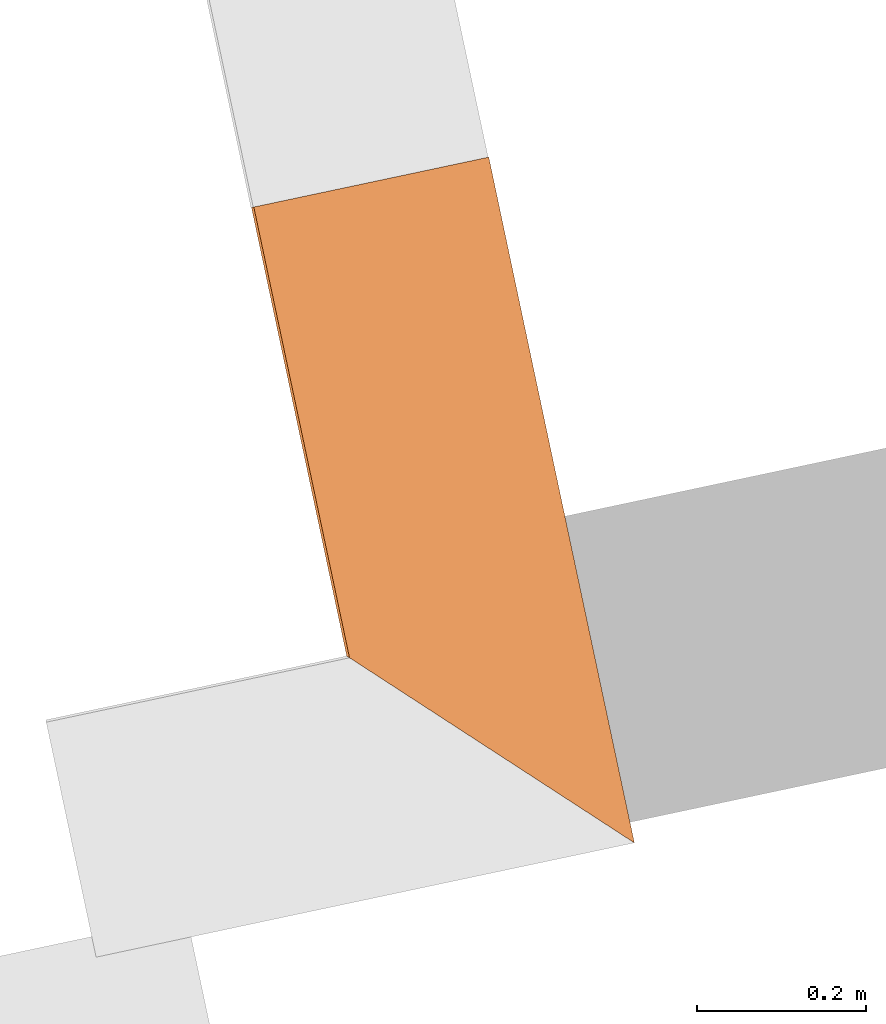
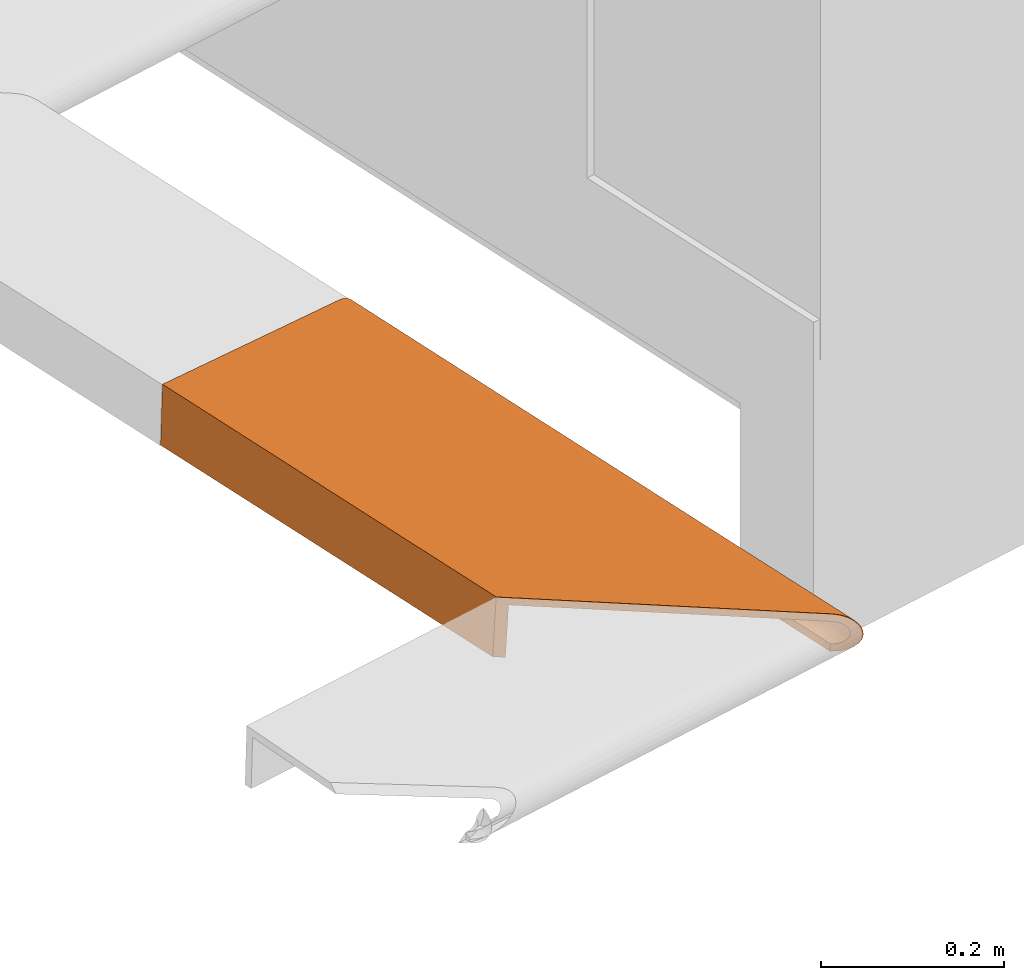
# One storey, part 22 of 22: 1 proxy.
"""IFC2X3 building model written with IfcOpenShell, lengths in centimetres."""

from ifc_helpers import new_model, entity, si_unit, converted_unit, derived_unit, direction, frame, origin, place, context, subcontext, project, spatial, faceted_brep, type_object, element, save


model = new_model("IFC2X3")

# Units and contexts
model_context = context("Model", 3, precision=0.001, world=origin(), true_north=direction((6.12303176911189e-17, 1.0)))
body_context = subcontext(model_context, "Body", "Model", "MODEL_VIEW")
ifc_project = project(units=[si_unit("LENGTHUNIT", "METRE", prefix="CENTI"), si_unit("AREAUNIT", "SQUARE_METRE"), si_unit("VOLUMEUNIT", "CUBIC_METRE"), converted_unit("PLANEANGLEUNIT", "DEGREE", entity("IfcRatioMeasure", 0.0174532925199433), si_unit("PLANEANGLEUNIT", "RADIAN"), dimensions=[0, 0, 0, 0, 0, 0, 0]), si_unit("MASSUNIT", "GRAM", prefix="KILO"), derived_unit("MASSDENSITYUNIT", [(si_unit("MASSUNIT", "GRAM", prefix="KILO"), 1), (si_unit("LENGTHUNIT", "METRE"), -3)]), derived_unit("IONCONCENTRATIONUNIT", [(si_unit("MASSUNIT", "GRAM", prefix="KILO"), 1), (si_unit("LENGTHUNIT", "METRE"), -3)]), derived_unit("MOMENTOFINERTIAUNIT", [(si_unit("LENGTHUNIT", "METRE"), 4)]), si_unit("TIMEUNIT", "SECOND"), si_unit("FREQUENCYUNIT", "HERTZ"), si_unit("THERMODYNAMICTEMPERATUREUNIT", "DEGREE_CELSIUS"), derived_unit("THERMALTRANSMITTANCEUNIT", [(si_unit("MASSUNIT", "GRAM", prefix="KILO"), 1), (si_unit("THERMODYNAMICTEMPERATUREUNIT", "KELVIN"), -1), (si_unit("TIMEUNIT", "SECOND"), -3)]), derived_unit("THERMALCONDUCTANCEUNIT", [(si_unit("MASSUNIT", "GRAM", prefix="KILO"), 1), (si_unit("THERMODYNAMICTEMPERATUREUNIT", "KELVIN"), -1), (si_unit("TIMEUNIT", "SECOND"), -3), (si_unit("LENGTHUNIT", "METRE"), 1)]), derived_unit("VOLUMETRICFLOWRATEUNIT", [(si_unit("LENGTHUNIT", "METRE"), 3), (si_unit("TIMEUNIT", "SECOND"), -1)]), derived_unit("MASSFLOWRATEUNIT", [(si_unit("MASSUNIT", "GRAM", prefix="KILO"), 1), (si_unit("TIMEUNIT", "SECOND"), -1)]), derived_unit("ROTATIONALFREQUENCYUNIT", [(si_unit("TIMEUNIT", "SECOND"), -1)]), si_unit("ELECTRICCURRENTUNIT", "AMPERE"), si_unit("ELECTRICVOLTAGEUNIT", "VOLT"), si_unit("POWERUNIT", "WATT"), si_unit("FORCEUNIT", "NEWTON", prefix="KILO"), si_unit("ILLUMINANCEUNIT", "LUX"), si_unit("LUMINOUSFLUXUNIT", "LUMEN"), si_unit("LUMINOUSINTENSITYUNIT", "CANDELA"), derived_unit("USERDEFINED", [(si_unit("MASSUNIT", "GRAM", prefix="KILO"), -1), (si_unit("LENGTHUNIT", "METRE"), -2), (si_unit("TIMEUNIT", "SECOND"), 3), (si_unit("LUMINOUSFLUXUNIT", "LUMEN"), 1)]), derived_unit("USERDEFINED", [(si_unit("MASSUNIT", "GRAM", prefix="KILO"), 1), (si_unit("TIMEUNIT", "SECOND"), -3), (si_unit("LENGTHUNIT", "METRE"), 3), (si_unit("ELECTRICCURRENTUNIT", "AMPERE"), -2)]), derived_unit("SOUNDPOWERUNIT", [(si_unit("MASSUNIT", "GRAM", prefix="KILO"), 1), (si_unit("TIMEUNIT", "SECOND"), -3), (si_unit("LENGTHUNIT", "METRE"), 2)]), derived_unit("SOUNDPRESSUREUNIT", [(si_unit("MASSUNIT", "GRAM", prefix="KILO"), 1), (si_unit("LENGTHUNIT", "METRE"), -1), (si_unit("TIMEUNIT", "SECOND"), -2)]), derived_unit("LINEARVELOCITYUNIT", [(si_unit("LENGTHUNIT", "METRE"), 1), (si_unit("TIMEUNIT", "SECOND"), -1)]), si_unit("PRESSUREUNIT", "PASCAL"), derived_unit("USERDEFINED", [(si_unit("MASSUNIT", "GRAM", prefix="KILO"), 1), (si_unit("LENGTHUNIT", "METRE"), -2), (si_unit("TIMEUNIT", "SECOND"), -2)]), derived_unit("LINEARFORCEUNIT", [(si_unit("MASSUNIT", "GRAM", prefix="KILO"), 1), (si_unit("TIMEUNIT", "SECOND"), -2)]), derived_unit("PLANARFORCEUNIT", [(si_unit("MASSUNIT", "GRAM", prefix="KILO"), 1), (si_unit("LENGTHUNIT", "METRE"), -1), (si_unit("TIMEUNIT", "SECOND"), -2)]), derived_unit("SPECIFICHEATCAPACITYUNIT", [(si_unit("THERMODYNAMICTEMPERATUREUNIT", "KELVIN"), -1), (si_unit("LENGTHUNIT", "METRE"), 2), (si_unit("TIMEUNIT", "SECOND"), -2)]), derived_unit("HEATINGVALUEUNIT", [(si_unit("LENGTHUNIT", "METRE"), 2), (si_unit("TIMEUNIT", "SECOND"), -2)]), derived_unit("VAPORPERMEABILITYUNIT", [(si_unit("LENGTHUNIT", "METRE"), -1), (si_unit("TIMEUNIT", "SECOND"), 1)]), derived_unit("DYNAMICVISCOSITYUNIT", [(si_unit("MASSUNIT", "GRAM", prefix="KILO"), 1), (si_unit("TIMEUNIT", "SECOND"), -1), (si_unit("LENGTHUNIT", "METRE"), -1)]), derived_unit("THERMALEXPANSIONCOEFFICIENTUNIT", [(si_unit("THERMODYNAMICTEMPERATUREUNIT", "KELVIN"), -1)]), derived_unit("MODULUSOFELASTICITYUNIT", [(si_unit("MASSUNIT", "GRAM", prefix="KILO"), 1), (si_unit("LENGTHUNIT", "METRE"), -1), (si_unit("TIMEUNIT", "SECOND"), -2)]), derived_unit("ISOTHERMALMOISTURECAPACITYUNIT", [(si_unit("LENGTHUNIT", "METRE"), 3), (si_unit("MASSUNIT", "GRAM", prefix="KILO"), -1)]), derived_unit("MOISTUREDIFFUSIVITYUNIT", [(si_unit("TIMEUNIT", "SECOND"), -1), (si_unit("LENGTHUNIT", "METRE"), 2)])], contexts=[model_context])

# Site, building, storey
site_placement = place(None, frame((14083.8920177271, -6853.25409548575, 6900.0), z_axis=(0.0, 0.0, 1.0), x_axis=(0.978188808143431, 0.207717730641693, 0.0)))
site = spatial("IfcSite", under=ifc_project, at=site_placement, Name="Surface", CompositionType="ELEMENT")
building_placement = place(site_placement, origin())
building = spatial("IfcBuilding", under=site, at=building_placement, CompositionType="ELEMENT")
storey_placement = place(building_placement, frame((0.0, 0.0, -17.0)))
storey = spatial("IfcBuildingStorey", under=building, at=storey_placement, Name="Rez de chaussée (SD)", CompositionType="ELEMENT", Elevation=-16.9999999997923)

# Proxy
building_element_proxy_type = type_object("IfcBuildingElementProxyType", Name="5118326", PredefinedType="NOTDEFINED")
proxy_placement = place(storey_placement, frame((-6216.43697857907, 14788.0267901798, 335.37614245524)))
element("IfcBuildingElementProxy", 1, at=proxy_placement, inside=storey, type_object=building_element_proxy_type, Name="5118326", context=body_context, shape_type="Brep", body=[
    faceted_brep([(1.24368730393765, 83.0336786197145, 6.99573578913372), (0.999390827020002, 83.0336786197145, 0.0), (0.0, 83.0336786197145, 0.0348994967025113), (0.244296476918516, 83.0336786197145, 7.03063528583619), (0.279195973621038, 83.0336786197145, 8.03002611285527), (26.2633574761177, 83.0336786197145, 7.12263919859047), (26.8987360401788, 83.0336786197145, 7.01744643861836), (27.4861520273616, 83.0336786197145, 6.75343115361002), (27.9866298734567, 83.0336786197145, 6.34811491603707), (28.3669570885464, 83.0336786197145, 5.82839777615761), (28.6018971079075, 83.0336786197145, 5.2287700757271), (28.6758617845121, 83.0336786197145, 4.58902399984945), (28.5839454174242, 83.0336786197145, 3.95161287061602), (28.3322498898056, 83.0336786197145, 3.35883398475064), (27.9374793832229, 83.0336786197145, 2.85002193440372), (27.4258316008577, 83.0336786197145, 2.45893864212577), (26.8312591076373, 83.0336786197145, 2.21153327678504), (26.1953722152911, 83.0336786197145, 2.12453784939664), (26.1417191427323, 83.0336786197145, 2.12439867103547), (26.0888599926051, 83.0336786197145, 2.12568506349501), (26.1237594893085, 83.0336786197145, 3.12507589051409), (26.158994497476, 83.0336786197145, 3.12425976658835), (26.1947304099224, 83.0336786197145, 3.12446845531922), (26.5753625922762, 83.0336786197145, 3.17827266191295), (26.9309667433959, 83.0336786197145, 3.32794093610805), (27.2366326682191, 83.0336786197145, 3.56336573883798), (27.4721370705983, 83.0336786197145, 3.86897304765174), (27.6218979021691, 83.0336786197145, 4.22454521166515), (27.6760054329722, 83.0336786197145, 4.60655833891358), (27.6308781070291, 83.0336786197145, 4.98973848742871), (27.4894997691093, 83.0336786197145, 5.34873372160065), (27.2612225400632, 83.0336786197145, 5.65979142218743), (26.9611483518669, 83.0336786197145, 5.90232988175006), (26.6091313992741, 83.0336786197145, 6.0602997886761), (26.2284579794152, 83.0336786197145, 6.12324837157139), (27.6376638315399, 1.19644919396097, 4.96158871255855), (27.6751949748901, 1.15891805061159, 4.57181288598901), (27.6105658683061, 1.22354715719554, 4.18560457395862), (27.4481808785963, 1.38593214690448, 3.82928323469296), (27.1991062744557, 1.63500675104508, 3.52713157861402), (26.8803160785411, 1.95379694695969, 3.29974074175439), (26.5135353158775, 2.32057770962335, 3.16260703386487), (26.1237594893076, 2.71035353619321, 3.12507589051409), (26.088859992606, 2.74525303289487, 2.12568506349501), (26.7384863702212, 2.09562665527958, 2.18823696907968), (27.3497876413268, 1.48432538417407, 2.41679314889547), (27.8811046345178, 0.953008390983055, 2.79577787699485), (28.2962289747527, 0.537884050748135, 3.29936397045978), (28.5668706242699, 0.267242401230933, 3.89323286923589), (28.6745858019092, 0.15952722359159, 4.53691338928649), (28.6120338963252, 0.222079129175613, 5.18653976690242), (28.3834777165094, 0.450635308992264, 5.79784103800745), (28.0044929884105, 0.829620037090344, 6.32915803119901), (27.5009068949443, 1.33320613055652, 6.74428237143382), (26.9070379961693, 1.92707502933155, 7.01492402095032), (26.2633574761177, 2.57075554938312, 7.12263919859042), (0.279195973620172, 28.5549170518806, 8.03002611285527), (0.244296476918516, 28.5898165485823, 7.03063528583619), (0.0, 28.8341130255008, 0.0348994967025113), (0.999390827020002, 27.8347221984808, 0.0), (1.24368730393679, 27.590425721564, 6.99573578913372), (26.2284579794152, 2.60565504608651, 6.12324837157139), (26.6146662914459, 2.21944673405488, 6.05861926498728), (26.9709876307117, 1.86312539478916, 5.89623427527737), (27.2731392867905, 1.56097373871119, 5.64715967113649), (27.5005301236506, 1.33358290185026, 5.32836947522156), (26.2284579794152, 55.9870521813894, 6.12324837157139), (26.2284579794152, 28.9404257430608, 6.12324837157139), (26.2633574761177, 20.0293310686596, 7.12263919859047), (26.2633574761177, 42.8022170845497, 7.12263919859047), (26.2633574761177, 62.9179478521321, 7.12263919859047), (26.0888599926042, 20.2037753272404, 2.12568506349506), (26.5291524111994, 34.1602046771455, 2.14921563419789), (27.6436705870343, 41.7130473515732, 2.60023965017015), (27.0655367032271, 28.6679955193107, 2.28772940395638), (27.1365450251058, 57.5667242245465, 2.31601089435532), (27.2325791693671, 42.0769296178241, 6.88996667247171), (26.7550926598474, 31.415747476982, 7.05619371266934), (27.1908052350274, 20.1145617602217, 6.90897963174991), (28.5191126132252, 18.6467652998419, 5.49613278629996), (28.664739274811, 26.0860074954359, 4.86231761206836), (28.6595656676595, 57.0602767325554, 4.91128868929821), (28.520747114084, 41.3648125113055, 5.49172819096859), (28.1935987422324, 54.5703847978, 6.10055437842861), (28.2160492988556, 24.0535236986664, 6.06937578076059), (28.6505142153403, 41.9118818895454, 4.26734633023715), (27.7757276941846, 27.9379257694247, 6.54541671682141), (28.6505142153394, 64.6135292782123, 4.2673463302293), (26.7654108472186, 56.208687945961, 7.05371415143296), (26.088859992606, 48.1166340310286, 2.12568506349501), (26.6023909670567, 56.8458951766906, 2.16077351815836), (27.23811642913, 64.1943843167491, 6.88737658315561), (27.7494970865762, 59.5232835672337, 6.56695627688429), (28.5038161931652, 64.2660839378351, 5.53618076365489), (28.6421235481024, 18.9545988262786, 4.21334472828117), (26.088859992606, 65.5751563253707, 2.12568506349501), (28.4539128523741, 29.0575280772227, 3.59381830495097), (28.4772649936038, 59.4640975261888, 3.64708492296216), (27.6349078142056, 19.2329716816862, 2.59391454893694), (28.1108109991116, 24.4064619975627, 3.04083426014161), (28.1513168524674, 54.2348375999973, 3.09166322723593), (27.69430094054, 64.4223287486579, 2.63793645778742), (26.1237594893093, 28.9406607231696, 3.12507589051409), (26.1237594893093, 55.9871696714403, 3.12507589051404), (26.7579967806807, 67.826277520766, 3.24162594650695), (26.7902402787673, 48.1983193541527, 5.99268047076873), (26.5122887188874, 51.3619434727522, 6.08600446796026), (26.7902402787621, 67.1277840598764, 5.99268047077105), (27.1190163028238, 61.0806540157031, 5.79074916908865), (27.0723323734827, 43.2829671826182, 5.82698513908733), (27.5584974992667, 58.862072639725, 4.04192394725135), (27.3642516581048, 64.9383206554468, 3.70856593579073), (27.0914005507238, 61.5487662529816, 3.43578471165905), (27.3854042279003, 43.2742171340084, 5.51163292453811), (26.7579967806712, 49.4801292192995, 3.24162594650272), (27.6658132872, 42.2932865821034, 4.79960541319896), (27.5821392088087, 24.8502281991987, 5.14673107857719), (27.5925982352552, 42.1231160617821, 5.11767757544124), (26.4150024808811, 23.9102311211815, 3.14330772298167), (26.614818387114, 36.038582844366, 3.18975150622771), (26.4309679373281, 48.0944242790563, 3.14597175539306), (26.8036396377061, 20.7753589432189, 5.98658826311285), (27.1352811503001, 25.718355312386, 5.77741330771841), (27.3995017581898, 20.0594589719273, 5.49209617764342), (27.6612854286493, 64.4121039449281, 4.41380484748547), (26.4195072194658, 66.2519961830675, 3.14404146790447), (27.0531502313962, 27.3348514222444, 3.4072816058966), (27.3362763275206, 20.5929975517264, 3.67336711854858), (27.6692634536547, 19.7823605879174, 4.76730186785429), (26.7073524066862, 21.2373899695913, 3.22138625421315), (27.3854042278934, 64.8604844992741, 5.51163292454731), (27.6000595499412, 16.8227492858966, 4.15260717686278), (27.4878646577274, 15.6881671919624, 3.89663453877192), (27.5717796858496, 59.1803834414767, 5.17380073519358), (27.6658132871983, 65.2390746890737, 4.79960541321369), (27.5158387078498, 44.5786272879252, 3.94953364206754), (27.5355502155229, 29.4979537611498, 3.99019142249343), (27.6413711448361, 45.7347515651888, 4.30321654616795), (26.4784066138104, 67.1524666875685, 6.09338505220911), (27.1346437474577, 44.1308851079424, 3.47038111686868), (27.3642516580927, 42.4818999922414, 3.70856593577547), (26.5070794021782, 18.0215316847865, 6.08719269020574), (26.5965187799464, 34.1636096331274, 6.06404247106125), (27.6557811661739, 26.5502409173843, 4.37805342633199)], [[[0, 1, 2, 3, 4, 5, 6, 7, 8, 9, 10, 11, 12, 13, 14, 15, 16, 17, 18, 19, 20, 21, 22, 23, 24, 25, 26, 27, 28, 29, 30, 31, 32, 33, 34]], [[35, 36, 37, 38, 39, 40, 41, 42, 43, 44, 45, 46, 47, 48, 49, 50, 51, 52, 53, 54, 55, 56, 57, 58, 59, 60, 61, 62, 63, 64, 65]], [[0, 34, 66, 67, 61, 60]], [[1, 0, 60, 59]], [[2, 1, 59, 58]], [[3, 2, 58, 57, 56, 4]], [[5, 4, 56, 55, 68, 69, 70]], [[68, 55, 54]], [[44, 71, 72]], [[73, 74, 75]], [[76, 77, 78]], [[51, 50, 79]], [[80, 81, 82]], [[82, 83, 84]], [[81, 80, 85]], [[86, 52, 84]], [[87, 81, 85]], [[79, 80, 82]], [[49, 80, 50]], [[6, 70, 88]], [[54, 78, 77]], [[89, 90, 72]], [[16, 15, 75]], [[91, 6, 88]], [[92, 83, 8]], [[9, 93, 10]], [[82, 93, 83]], [[9, 8, 83]], [[94, 80, 49]], [[93, 81, 10]], [[16, 75, 90]], [[87, 12, 11]], [[90, 95, 17]], [[96, 97, 85]], [[47, 96, 48]], [[71, 89, 72]], [[96, 85, 94]], [[98, 46, 45]], [[84, 52, 51]], [[53, 52, 86]], [[99, 96, 47]], [[69, 77, 88]], [[73, 100, 99]], [[92, 86, 83]], [[16, 90, 17]], [[13, 97, 100]], [[100, 14, 13]], [[14, 101, 15]], [[44, 74, 45]], [[76, 78, 86]], [[98, 74, 73]], [[73, 101, 100]], [[101, 75, 15]], [[17, 95, 18]], [[99, 47, 46]], [[19, 18, 95]], [[92, 8, 7]], [[97, 13, 12]], [[48, 94, 49]], [[89, 95, 90]], [[81, 11, 10]], [[74, 90, 75]], [[91, 92, 7]], [[86, 92, 76]], [[97, 12, 87]], [[96, 100, 97]], [[44, 43, 71]], [[99, 46, 98]], [[100, 96, 99]], [[84, 51, 79]], [[83, 86, 84]], [[90, 74, 72]], [[44, 72, 74]], [[54, 77, 68]], [[69, 68, 77]], [[88, 77, 76]], [[91, 88, 76]], [[54, 53, 78]], [[86, 78, 53]], [[92, 91, 76]], [[6, 91, 7]], [[83, 93, 9]], [[81, 93, 82]], [[100, 101, 14]], [[75, 101, 73]], [[81, 87, 11]], [[97, 87, 85]], [[96, 94, 48]], [[80, 94, 85]], [[80, 79, 50]], [[84, 79, 82]], [[74, 98, 45]], [[99, 98, 73]], [[70, 6, 5]], [[70, 69, 88]], [[20, 19, 95, 89, 71, 43, 42, 102, 103]], [[24, 23, 104]], [[105, 106, 107]], [[105, 108, 109]], [[110, 27, 26]], [[111, 25, 112]], [[108, 113, 109]], [[112, 104, 114]], [[115, 116, 117]], [[118, 119, 120]], [[62, 121, 63]], [[122, 113, 123]], [[110, 124, 27]], [[112, 25, 24]], [[22, 21, 125]], [[42, 118, 102]], [[23, 125, 104]], [[126, 39, 127]], [[22, 125, 23]], [[116, 128, 35]], [[126, 129, 40]], [[39, 126, 40]], [[108, 31, 130]], [[131, 132, 37]], [[21, 20, 103]], [[116, 115, 128]], [[133, 113, 130]], [[28, 124, 134]], [[116, 113, 117]], [[135, 136, 137]], [[32, 108, 107]], [[106, 138, 107]], [[112, 114, 139]], [[33, 32, 107]], [[111, 139, 140]], [[130, 31, 30]], [[136, 132, 131]], [[124, 28, 27]], [[63, 121, 122]], [[131, 37, 36]], [[128, 36, 35]], [[64, 123, 65]], [[138, 66, 34]], [[120, 125, 103]], [[30, 29, 133]], [[31, 108, 32]], [[65, 116, 35]], [[127, 39, 38]], [[116, 65, 123]], [[64, 63, 122]], [[141, 142, 121]], [[41, 40, 129]], [[137, 124, 110]], [[134, 124, 115]], [[141, 62, 61]], [[111, 26, 25]], [[127, 140, 139]], [[126, 127, 139]], [[140, 127, 136]], [[120, 102, 118]], [[119, 129, 126]], [[134, 29, 28]], [[143, 115, 137]], [[122, 121, 109]], [[142, 106, 105]], [[128, 143, 36]], [[143, 128, 115]], [[116, 123, 113]], [[123, 64, 122]], [[108, 130, 113]], [[130, 30, 133]], [[111, 110, 26]], [[135, 110, 111]], [[134, 133, 29]], [[133, 134, 115]], [[140, 136, 135]], [[143, 136, 131]], [[33, 107, 138]], [[105, 107, 108]], [[124, 137, 115]], [[143, 137, 136]], [[33, 138, 34]], [[106, 66, 138]], [[106, 67, 66]], [[121, 142, 105]], [[142, 67, 106]], [[62, 141, 121]], [[141, 67, 142]], [[67, 141, 61]], [[24, 104, 112]], [[125, 120, 114]], [[104, 125, 114]], [[21, 103, 125]], [[114, 120, 119]], [[120, 103, 102]], [[114, 119, 126]], [[118, 129, 119]], [[118, 41, 129]], [[41, 118, 42]], [[117, 133, 115]], [[133, 117, 113]], [[105, 109, 121]], [[122, 109, 113]], [[126, 139, 114]], [[112, 139, 111]], [[140, 135, 111]], [[110, 135, 137]], [[143, 131, 36]], [[38, 37, 132]], [[132, 127, 38]], [[132, 136, 127]]]),
])

save(model, "model.ifc")
